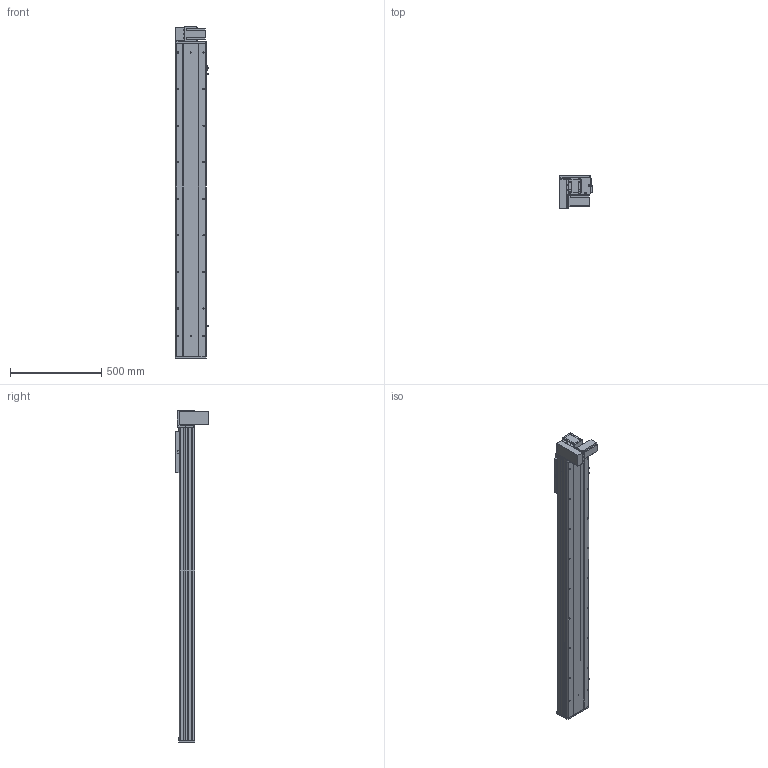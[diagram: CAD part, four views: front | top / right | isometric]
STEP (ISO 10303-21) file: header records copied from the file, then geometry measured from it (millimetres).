
FILE_DESCRIPTION (( 'STEP AP203' ), '1' );
FILE_NAME ('Y170CB-D105-S1400-BM-P400W.STEP', '2020-02-20T06:53:48', ( '微软用户' ), ( '微软中国' ), 'SwSTEP 2.0', 'SolidWorks 2017', '' );
FILE_SCHEMA (( 'CONFIG_CONTROL_DESIGN' ));
Length unit declared in the file: millimetre
Products named in the file (18): Y100-135俋离換覜ん--; 70CB-掛极-; Y170CB-陔俋离換覜結え---; --70CB --喘謫眊楊擘啣-; Y1埴倛裔; 70CB-耜裔啣-; 17B-耜蚾蟀諉啣----; 70C--詩湍揤踡え-; 00B-俋欶BM--163; 70CB--耜裔; 70B喘謫眊----; 70C-雄赽釱-奻-; B-源倛裔啣; Y170CB-D105-S1400-BM-P400W; 0C--雄赽釱俋欶-170; 0B-萇儂楊擘啣; 70CB-詩湍--; san松下电机400不带刹车----
Assembly tree (21 placements, depth 2):
  Y170CB-D105-S1400-BM-P400W
    B-源倛裔啣
    0B-萇儂楊擘啣
    san松下电机400不带刹车----
    70CB-掛极-
    --70CB --喘謫眊楊擘啣-
    70CB-耜裔啣-  x2
    70C--詩湍揤踡え-  x2
    70CB--耜裔
    70C-雄赽釱-奻-
    0C--雄赽釱俋欶-170
    70CB-詩湍--
    Y100-135俋离換覜ん--  x3
    Y170CB-陔俋离換覜結え---
    Y1埴倛裔
    17B-耜蚾蟀諉啣----
    00B-俋欶BM--163
    70B喘謫眊----
Bounding box: 183.5 x 184 x 1816 mm (x, y, z)
Volume: 8114502.9 mm3; surface area: 2917219.9 mm2
Topology: 21 solids, 21 shells, 1023 faces, 2741 edges, 1818 vertices
Faces by surface type: cylinder 537, plane 462, cone 24
Entity records: 32620 total; most frequent: CARTESIAN_POINT 5976, DIRECTION 5306, ORIENTED_EDGE 4964, EDGE_CURVE 2482, AXIS2_PLACEMENT_3D 1948, VERTEX_POINT 1648, LINE 1410, VECTOR 1410
